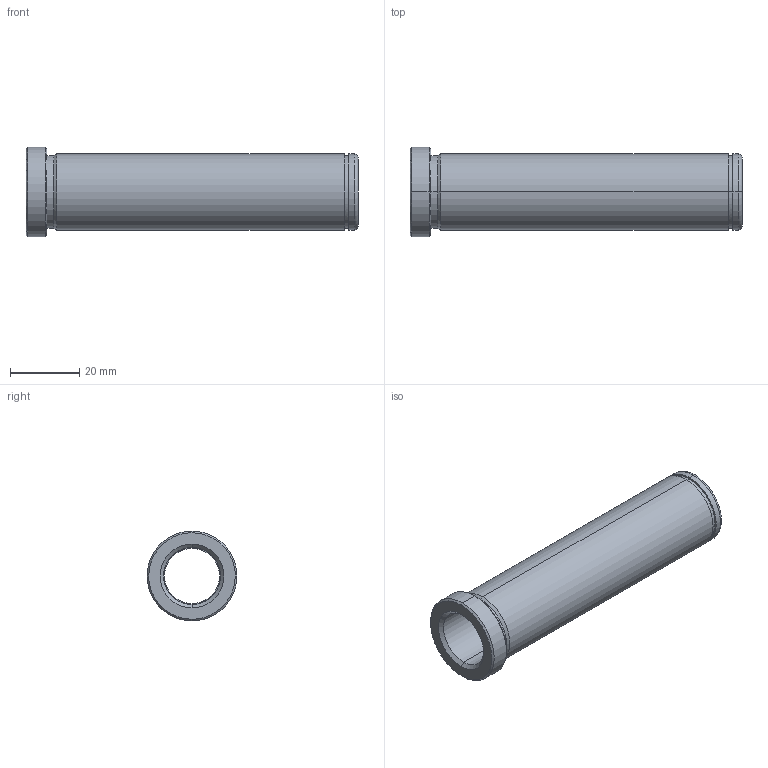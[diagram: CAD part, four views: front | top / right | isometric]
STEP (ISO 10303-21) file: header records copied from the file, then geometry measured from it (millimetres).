
FILE_DESCRIPTION(('CATIA V5 STEP Exchange'),'2;1');
FILE_NAME('C:\Users\Utente\Desktop\IO LAVORO\3D X SITO CF\X SITO\PLASTICA\553\553-16X96.stp','2021-05-21T19:01:05+00:00',('none'),('none'),'CATIA Version 5 Release 20 GA (IN-10)','CATIA V5 STEP AP203','none');
FILE_SCHEMA(('CONFIG_CONTROL_DESIGN'));
Length unit declared in the file: millimetre
Products named in the file (1): 553-16X96
Bounding box: 96 x 26 x 26 mm (x, y, z)
Volume: 17244.3 mm3; surface area: 12233.8 mm2
Topology: 1 solids, 1 shells, 32 faces, 102 edges, 76 vertices
Faces by surface type: cylinder 14, cone 8, plane 6, torus 4
Entity records: 1334 total; most frequent: CARTESIAN_POINT 389, ORIENTED_EDGE 204, DIRECTION 152, EDGE_CURVE 102, AXIS2_PLACEMENT_3D 99, VERTEX_POINT 76, CIRCLE 66, EDGE_LOOP 38
